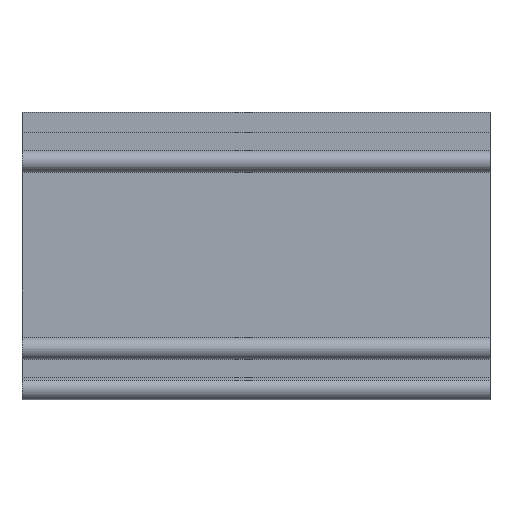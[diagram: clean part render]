
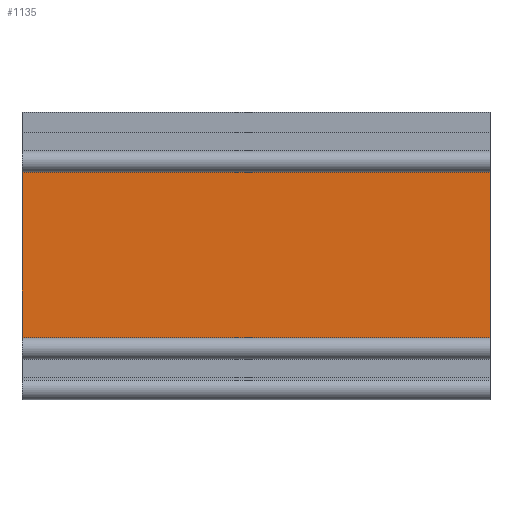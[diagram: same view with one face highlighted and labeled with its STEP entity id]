
A CAD part, top view. The second image highlights one B-rep face of the part: STEP entity #1135.
In plain terms, the highlighted planar face has unit normal (0, 0, 1).
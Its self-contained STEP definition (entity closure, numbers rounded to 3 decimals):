
#82=LINE('',#1763,#215);
#83=LINE('',#1766,#216);
#84=LINE('',#1768,#217);
#85=LINE('',#1769,#218);
#215=VECTOR('',#1419,10.);
#216=VECTOR('',#1422,10.);
#217=VECTOR('',#1423,10.);
#218=VECTOR('',#1424,10.);
#323=PLANE('',#1227);
#377=FACE_OUTER_BOUND('',#437,.T.);
#437=EDGE_LOOP('',(#886,#887,#888,#889));
#560=VERTEX_POINT('',#1759);
#561=VERTEX_POINT('',#1761);
#562=VERTEX_POINT('',#1765);
#563=VERTEX_POINT('',#1767);
#694=EDGE_CURVE('',#560,#561,#82,.T.);
#695=EDGE_CURVE('',#560,#562,#83,.T.);
#696=EDGE_CURVE('',#563,#561,#84,.T.);
#697=EDGE_CURVE('',#562,#563,#85,.T.);
#886=ORIENTED_EDGE('',*,*,#695,.F.);
#887=ORIENTED_EDGE('',*,*,#694,.T.);
#888=ORIENTED_EDGE('',*,*,#696,.F.);
#889=ORIENTED_EDGE('',*,*,#697,.F.);
#1135=ADVANCED_FACE('',(#377),#323,.T.);
#1227=AXIS2_PLACEMENT_3D('',#1764,#1420,#1421);
#1419=DIRECTION('',(1.,0.,0.));
#1420=DIRECTION('center_axis',(0.,0.,1.));
#1421=DIRECTION('ref_axis',(0.,-1.,0.));
#1422=DIRECTION('',(0.,1.,0.));
#1423=DIRECTION('',(0.,-1.,0.));
#1424=DIRECTION('',(1.,0.,0.));
#1759=CARTESIAN_POINT('',(0.,-16.75,11.));
#1761=CARTESIAN_POINT('',(90.,-16.75,11.));
#1763=CARTESIAN_POINT('',(0.,-16.75,11.));
#1764=CARTESIAN_POINT('Origin',(0.,16.75,11.));
#1765=CARTESIAN_POINT('',(0.,16.75,11.));
#1766=CARTESIAN_POINT('',(0.,-16.75,11.));
#1767=CARTESIAN_POINT('',(90.,16.75,11.));
#1768=CARTESIAN_POINT('',(90.,-16.75,11.));
#1769=CARTESIAN_POINT('',(0.,16.75,11.));
